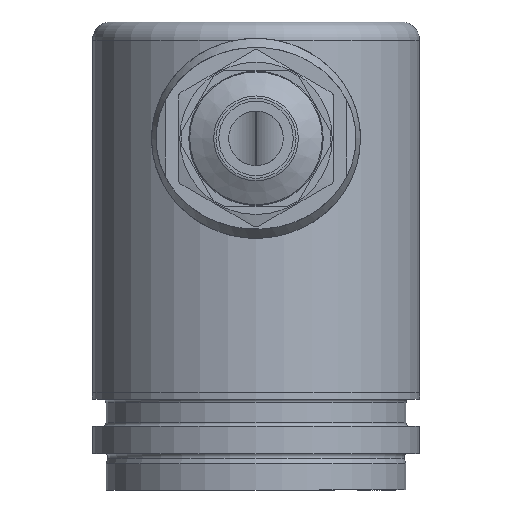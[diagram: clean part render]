
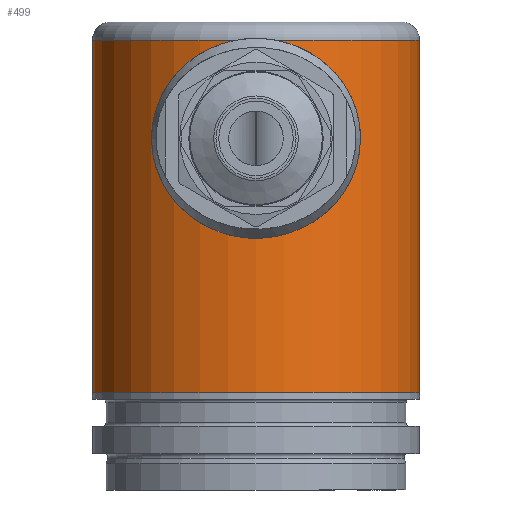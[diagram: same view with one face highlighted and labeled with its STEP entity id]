
A CAD part, front view. The second image highlights one B-rep face of the part: STEP entity #499.
In plain terms, the highlighted cylindrical face has radius 18 mm (diameter 36 mm), a full revolution.
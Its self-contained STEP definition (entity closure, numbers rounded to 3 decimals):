
#499 = ADVANCED_FACE( '', ( #960, #961 ), #962, .T. );
#960 = FACE_OUTER_BOUND( '', #1547, .T. );
#961 = FACE_OUTER_BOUND( '', #1548, .T. );
#962 = CYLINDRICAL_SURFACE( '', #1549, 18. );
#1547 = EDGE_LOOP( '', ( #2221 ) );
#1548 = EDGE_LOOP( '', ( #2222 ) );
#1549 = AXIS2_PLACEMENT_3D( '', #2223, #2224, #2225 );
#2221 = ORIENTED_EDGE( '', *, *, #2885, .F. );
#2222 = ORIENTED_EDGE( '', *, *, #2886, .T. );
#2223 = CARTESIAN_POINT( '', ( 0., 0., 26.1 ) );
#2224 = DIRECTION( '', ( 0., 0., -1. ) );
#2225 = DIRECTION( '', ( 1., 0., 0. ) );
#2885 = EDGE_CURVE( '', #3382, #3382, #3383, .T. );
#2886 = EDGE_CURVE( '', #3384, #3384, #3385, .T. );
#3382 = VERTEX_POINT( '', #4322 );
#3383 = CIRCLE( '', #4323, 18. );
#3384 = VERTEX_POINT( '', #4324 );
#3385 = CIRCLE( '', #4325, 18. );
#4322 = CARTESIAN_POINT( '', ( 18., 0., 38.8 ) );
#4323 = AXIS2_PLACEMENT_3D( '', #4922, #4923, #4924 );
#4324 = CARTESIAN_POINT( '', ( 18., 0., 0. ) );
#4325 = AXIS2_PLACEMENT_3D( '', #4925, #4926, #4927 );
#4922 = CARTESIAN_POINT( '', ( 0., 0., 38.8 ) );
#4923 = DIRECTION( '', ( 0., 0., 1. ) );
#4924 = DIRECTION( '', ( 1., 0., 0. ) );
#4925 = CARTESIAN_POINT( '', ( 0., 0., 0. ) );
#4926 = DIRECTION( '', ( 0., 0., 1. ) );
#4927 = DIRECTION( '', ( 1., 0., 0. ) );
